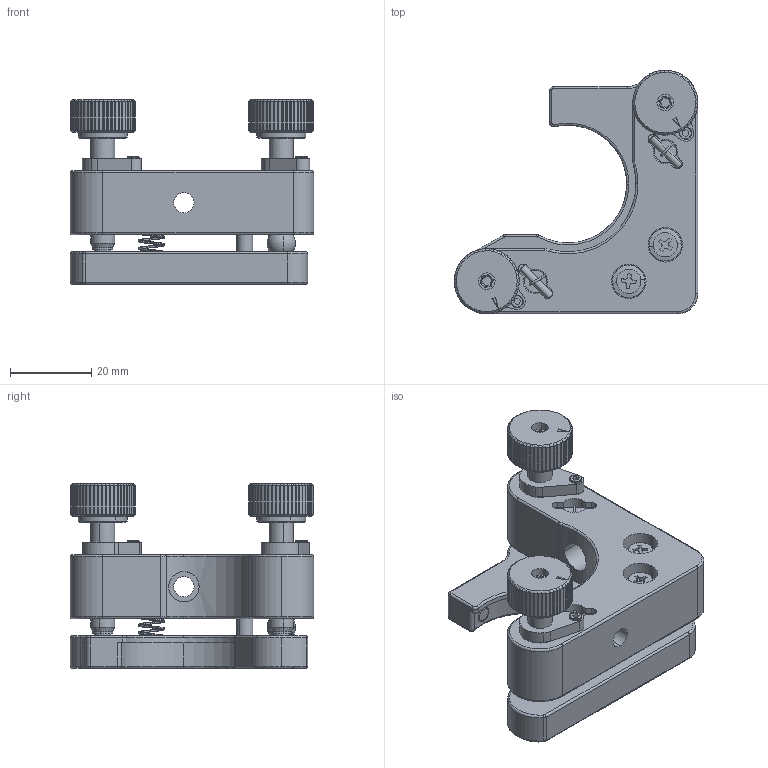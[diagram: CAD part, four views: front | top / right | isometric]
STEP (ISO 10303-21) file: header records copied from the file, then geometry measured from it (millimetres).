
FILE_DESCRIPTION (( 'STEP AP203' ), '1' );
FILE_NAME ('M-TNC-1.2R-HOC.STEP', '2020-09-03T02:53:35', ( '匠星' ), ( '' ), 'SwSTEP 2.0', 'SolidWorks 2019', '' );
FILE_SCHEMA (( 'CONFIG_CONTROL_DESIGN' ));
Length unit declared in the file: millimetre
Products named in the file (1): M-TNC-1.2R-HOC
Bounding box: 60 x 60 x 45.5 mm (x, y, z)
Volume: 41014.6 mm3; surface area: 19916.6 mm2
Topology: 17 solids, 21 shells, 1020 faces, 2583 edges, 1631 vertices
Faces by surface type: cylinder 428, plane 413, torus 85, cone 68, sphere 22, bspline 4
Entity records: 35536 total; most frequent: CARTESIAN_POINT 11322, ORIENTED_EDGE 5092, DIRECTION 5063, EDGE_CURVE 2546, AXIS2_PLACEMENT_3D 2009, VERTEX_POINT 1624, EDGE_LOOP 1108, LINE 1045
